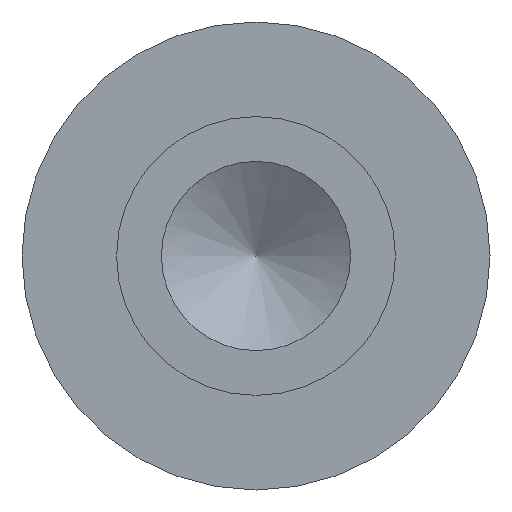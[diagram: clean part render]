
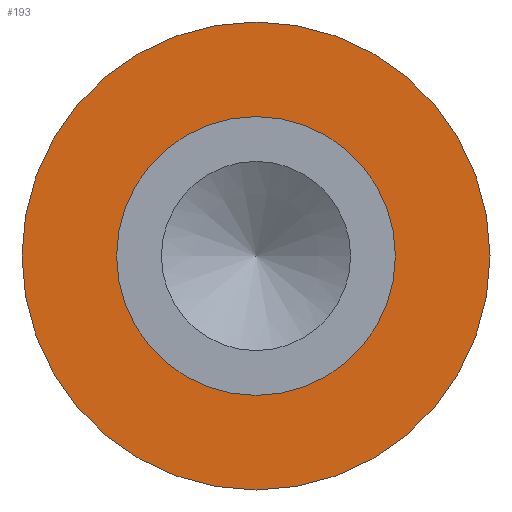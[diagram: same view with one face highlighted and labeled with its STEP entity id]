
A CAD part, left-side view. The second image highlights one B-rep face of the part: STEP entity #193.
In plain terms, the highlighted planar face has unit normal (-1, 0, 0).
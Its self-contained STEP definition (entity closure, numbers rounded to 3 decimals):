
#15=FACE_BOUND($,#67,.T.);
#36=CIRCLE($,#217,1.422);
#38=CIRCLE($,#220,2.388);
#51=FACE_OUTER_BOUND($,#66,.T.);
#66=EDGE_LOOP($,(#155));
#67=EDGE_LOOP($,(#156));
#106=VERTEX_POINT($,#330);
#108=VERTEX_POINT($,#335);
#127=EDGE_CURVE($,#106,#106,#36,.T.);
#129=EDGE_CURVE($,#108,#108,#38,.T.);
#155=ORIENTED_EDGE($,*,*,#129,.F.);
#156=ORIENTED_EDGE($,*,*,#127,.T.);
#181=PLANE($,#219);
#193=ADVANCED_FACE($,(#51,#15),#181,.T.);
#217=AXIS2_PLACEMENT_3D($,#331,#269,#270);
#219=AXIS2_PLACEMENT_3D($,#334,#273,#274);
#220=AXIS2_PLACEMENT_3D($,#336,#275,#276);
#269=DIRECTION('center_axis',(1.,0.,0.));
#270=DIRECTION('ref_axis',(0.,1.,0.));
#273=DIRECTION('center_axis',(-1.,0.,0.));
#274=DIRECTION('ref_axis',(0.,0.,1.));
#275=DIRECTION('center_axis',(1.,0.,0.));
#276=DIRECTION('ref_axis',(0.,1.,0.));
#330=CARTESIAN_POINT('',(4.369,1.422,0.));
#331=CARTESIAN_POINT('Origin',(4.369,0.,0.));
#334=CARTESIAN_POINT('Origin',(4.369,1.905,0.));
#335=CARTESIAN_POINT('',(4.369,2.388,0.));
#336=CARTESIAN_POINT('Origin',(4.369,0.,0.));
